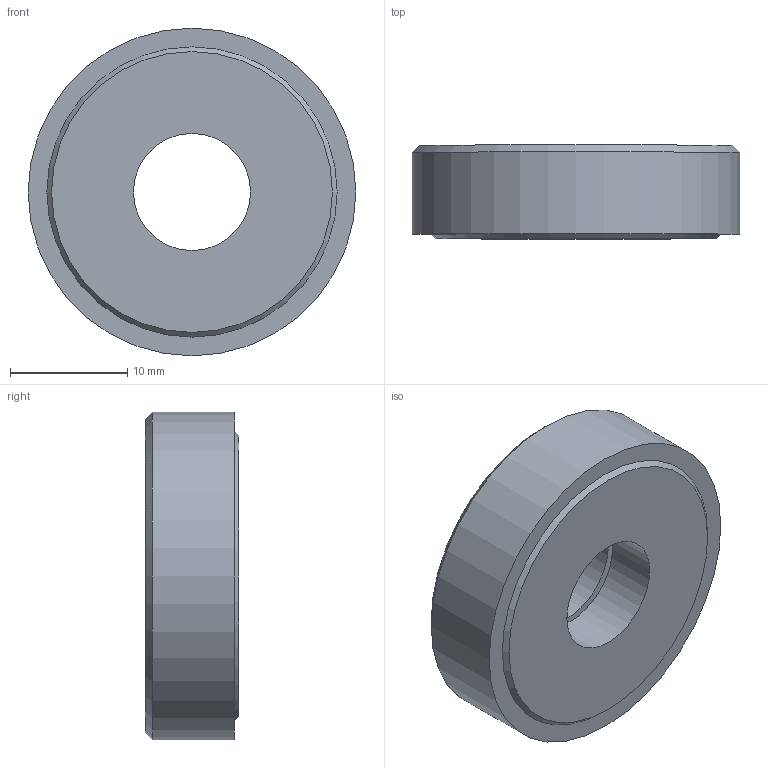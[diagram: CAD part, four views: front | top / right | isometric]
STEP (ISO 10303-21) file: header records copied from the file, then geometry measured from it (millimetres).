
FILE_DESCRIPTION( ( 'STEP AP203' ), '1' );
FILE_NAME( 'C:/Temp/Ganter_Step_05_03_2020/data/3_2/gn_6342/gn_6342_ni/Stainless Steel Washer with axial friction bearing GN 6342-NI-28-10.stp', '2020-03-13T05:36:55', ( 'License CC BY-ND 4.0' ), ( 'CADENAS' ), ' ', 'PARTsolutions', ' ' );
FILE_SCHEMA( ( 'CONFIG_CONTROL_DESIGN' ) );
Length unit declared in the file: millimetre
Products named in the file (1): _Stainless Steel Washer with axial friction bearing GN 6342-NI-28-10
Bounding box: 28 x 8 x 28 mm (x, y, z)
Volume: 4185.1 mm3; surface area: 2132.7 mm2
Topology: 1 solids, 1 shells, 11 faces, 17 edges, 11 vertices
Faces by surface type: plane 5, cylinder 4, cone 2
Full cylindrical faces by diameter (mm): 10 x2, 14 x1, 28 x1
Entity records: 272 total; most frequent: DIRECTION 46, CARTESIAN_POINT 34, AXIS2_PLACEMENT_3D 23, EDGE_LOOP 22, ORIENTED_EDGE 22, FACE_OUTER_BOUND 15, ADVANCED_FACE 11, EDGE_CURVE 11
